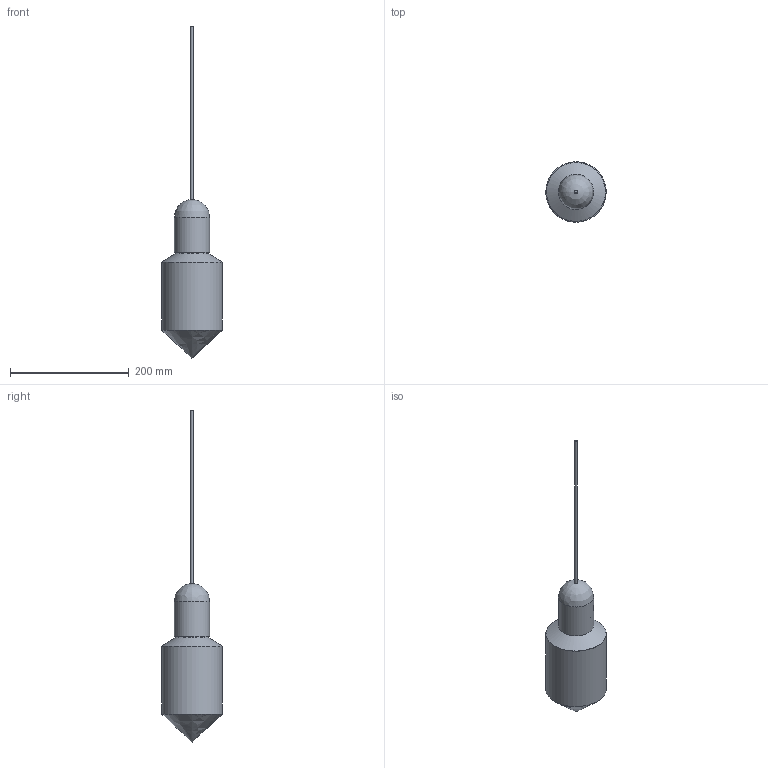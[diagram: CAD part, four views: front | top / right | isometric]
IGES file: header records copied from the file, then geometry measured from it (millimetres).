
Global section: file name: Niche - Dart Petite - Placebo Pendant; native system: unknown; preprocessor: unknown; author: unknown; organization: unknown; date: 20250109.102400; units: inch
Bounding box: 101.6 x 101.5 x 558.78 mm (x, y, z)
Volume: 141485.2 mm3; surface area: 161796.4 mm2
Topology: 5 solids, 5 shells, 102 faces, 281 edges, 188 vertices
Faces by surface type: bspline 102
